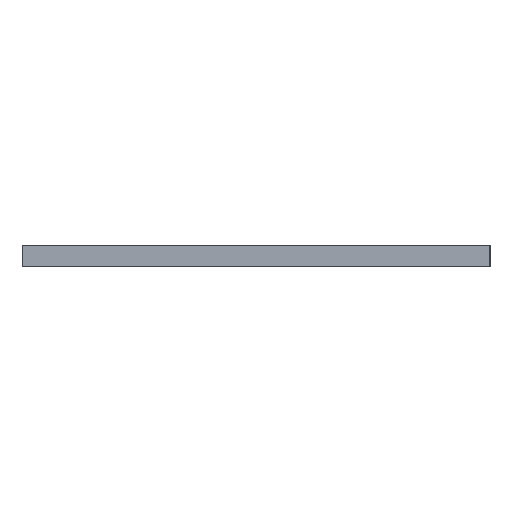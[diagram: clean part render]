
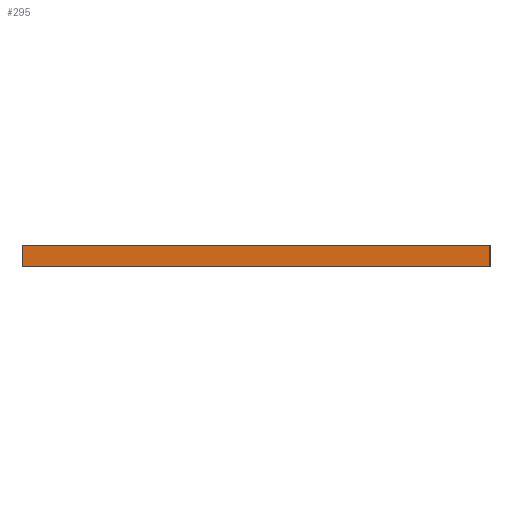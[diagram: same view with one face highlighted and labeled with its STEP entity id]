
A CAD part, left-side view. The second image highlights one B-rep face of the part: STEP entity #295.
In plain terms, the highlighted planar face has unit normal (-1, 0, 0).
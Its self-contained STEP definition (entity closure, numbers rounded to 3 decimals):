
#32 = EDGE_CURVE('',#33,#35,#37,.T.);
#33 = VERTEX_POINT('',#34);
#34 = CARTESIAN_POINT('',(0.,0.,0.));
#35 = VERTEX_POINT('',#36);
#36 = CARTESIAN_POINT('',(0.,0.,3.));
#37 = SURFACE_CURVE('',#38,(#42,#54),.PCURVE_S1.);
#38 = LINE('',#39,#40);
#39 = CARTESIAN_POINT('',(0.,0.,0.));
#40 = VECTOR('',#41,1.);
#41 = DIRECTION('',(0.,0.,1.));
#42 = PCURVE('',#43,#48);
#43 = PLANE('',#44);
#44 = AXIS2_PLACEMENT_3D('',#45,#46,#47);
#45 = CARTESIAN_POINT('',(0.,0.,0.));
#46 = DIRECTION('',(0.,1.,0.));
#47 = DIRECTION('',(1.,0.,0.));
#48 = DEFINITIONAL_REPRESENTATION('',(#49),#53);
#49 = LINE('',#50,#51);
#50 = CARTESIAN_POINT('',(0.,0.));
#51 = VECTOR('',#52,1.);
#52 = DIRECTION('',(0.,-1.));
#53 = ( GEOMETRIC_REPRESENTATION_CONTEXT(2) 
PARAMETRIC_REPRESENTATION_CONTEXT() REPRESENTATION_CONTEXT('2D SPACE',''
  ) );
#54 = PCURVE('',#55,#60);
#55 = PLANE('',#56);
#56 = AXIS2_PLACEMENT_3D('',#57,#58,#59);
#57 = CARTESIAN_POINT('',(0.,64.8,0.));
#58 = DIRECTION('',(1.,0.,-0.));
#59 = DIRECTION('',(0.,-1.,0.));
#60 = DEFINITIONAL_REPRESENTATION('',(#61),#65);
#61 = LINE('',#62,#63);
#62 = CARTESIAN_POINT('',(64.8,0.));
#63 = VECTOR('',#64,1.);
#64 = DIRECTION('',(0.,-1.));
#65 = ( GEOMETRIC_REPRESENTATION_CONTEXT(2) 
PARAMETRIC_REPRESENTATION_CONTEXT() REPRESENTATION_CONTEXT('2D SPACE',''
  ) );
#83 = PLANE('',#84);
#84 = AXIS2_PLACEMENT_3D('',#85,#86,#87);
#85 = CARTESIAN_POINT('',(0.,0.,3.));
#86 = DIRECTION('',(0.,0.,-1.));
#87 = DIRECTION('',(-1.,0.,0.));
#137 = PLANE('',#138);
#138 = AXIS2_PLACEMENT_3D('',#139,#140,#141);
#139 = CARTESIAN_POINT('',(0.,0.,0.));
#140 = DIRECTION('',(0.,0.,-1.));
#141 = DIRECTION('',(-1.,0.,0.));
#192 = PLANE('',#193);
#193 = AXIS2_PLACEMENT_3D('',#194,#195,#196);
#194 = CARTESIAN_POINT('',(119.9,64.8,0.));
#195 = DIRECTION('',(0.,-1.,0.));
#196 = DIRECTION('',(-1.,0.,0.));
#230 = VERTEX_POINT('',#231);
#231 = CARTESIAN_POINT('',(0.,64.8,3.));
#252 = EDGE_CURVE('',#253,#230,#255,.T.);
#253 = VERTEX_POINT('',#254);
#254 = CARTESIAN_POINT('',(0.,64.8,0.));
#255 = SURFACE_CURVE('',#256,(#260,#267),.PCURVE_S1.);
#256 = LINE('',#257,#258);
#257 = CARTESIAN_POINT('',(0.,64.8,0.));
#258 = VECTOR('',#259,1.);
#259 = DIRECTION('',(0.,0.,1.));
#260 = PCURVE('',#192,#261);
#261 = DEFINITIONAL_REPRESENTATION('',(#262),#266);
#262 = LINE('',#263,#264);
#263 = CARTESIAN_POINT('',(119.9,0.));
#264 = VECTOR('',#265,1.);
#265 = DIRECTION('',(0.,-1.));
#266 = ( GEOMETRIC_REPRESENTATION_CONTEXT(2) 
PARAMETRIC_REPRESENTATION_CONTEXT() REPRESENTATION_CONTEXT('2D SPACE',''
  ) );
#267 = PCURVE('',#55,#268);
#268 = DEFINITIONAL_REPRESENTATION('',(#269),#273);
#269 = LINE('',#270,#271);
#270 = CARTESIAN_POINT('',(0.,0.));
#271 = VECTOR('',#272,1.);
#272 = DIRECTION('',(0.,-1.));
#273 = ( GEOMETRIC_REPRESENTATION_CONTEXT(2) 
PARAMETRIC_REPRESENTATION_CONTEXT() REPRESENTATION_CONTEXT('2D SPACE',''
  ) );
#295 = ADVANCED_FACE('',(#296),#55,.F.);
#296 = FACE_BOUND('',#297,.F.);
#297 = EDGE_LOOP('',(#298,#299,#320,#321));
#298 = ORIENTED_EDGE('',*,*,#252,.T.);
#299 = ORIENTED_EDGE('',*,*,#300,.T.);
#300 = EDGE_CURVE('',#230,#35,#301,.T.);
#301 = SURFACE_CURVE('',#302,(#306,#313),.PCURVE_S1.);
#302 = LINE('',#303,#304);
#303 = CARTESIAN_POINT('',(0.,64.8,3.));
#304 = VECTOR('',#305,1.);
#305 = DIRECTION('',(0.,-1.,0.));
#306 = PCURVE('',#55,#307);
#307 = DEFINITIONAL_REPRESENTATION('',(#308),#312);
#308 = LINE('',#309,#310);
#309 = CARTESIAN_POINT('',(0.,-3.));
#310 = VECTOR('',#311,1.);
#311 = DIRECTION('',(1.,0.));
#312 = ( GEOMETRIC_REPRESENTATION_CONTEXT(2) 
PARAMETRIC_REPRESENTATION_CONTEXT() REPRESENTATION_CONTEXT('2D SPACE',''
  ) );
#313 = PCURVE('',#83,#314);
#314 = DEFINITIONAL_REPRESENTATION('',(#315),#319);
#315 = LINE('',#316,#317);
#316 = CARTESIAN_POINT('',(0.,64.8));
#317 = VECTOR('',#318,1.);
#318 = DIRECTION('',(0.,-1.));
#319 = ( GEOMETRIC_REPRESENTATION_CONTEXT(2) 
PARAMETRIC_REPRESENTATION_CONTEXT() REPRESENTATION_CONTEXT('2D SPACE',''
  ) );
#320 = ORIENTED_EDGE('',*,*,#32,.F.);
#321 = ORIENTED_EDGE('',*,*,#322,.F.);
#322 = EDGE_CURVE('',#253,#33,#323,.T.);
#323 = SURFACE_CURVE('',#324,(#328,#335),.PCURVE_S1.);
#324 = LINE('',#325,#326);
#325 = CARTESIAN_POINT('',(0.,64.8,0.));
#326 = VECTOR('',#327,1.);
#327 = DIRECTION('',(0.,-1.,0.));
#328 = PCURVE('',#55,#329);
#329 = DEFINITIONAL_REPRESENTATION('',(#330),#334);
#330 = LINE('',#331,#332);
#331 = CARTESIAN_POINT('',(0.,0.));
#332 = VECTOR('',#333,1.);
#333 = DIRECTION('',(1.,0.));
#334 = ( GEOMETRIC_REPRESENTATION_CONTEXT(2) 
PARAMETRIC_REPRESENTATION_CONTEXT() REPRESENTATION_CONTEXT('2D SPACE',''
  ) );
#335 = PCURVE('',#137,#336);
#336 = DEFINITIONAL_REPRESENTATION('',(#337),#341);
#337 = LINE('',#338,#339);
#338 = CARTESIAN_POINT('',(0.,64.8));
#339 = VECTOR('',#340,1.);
#340 = DIRECTION('',(0.,-1.));
#341 = ( GEOMETRIC_REPRESENTATION_CONTEXT(2) 
PARAMETRIC_REPRESENTATION_CONTEXT() REPRESENTATION_CONTEXT('2D SPACE',''
  ) );
